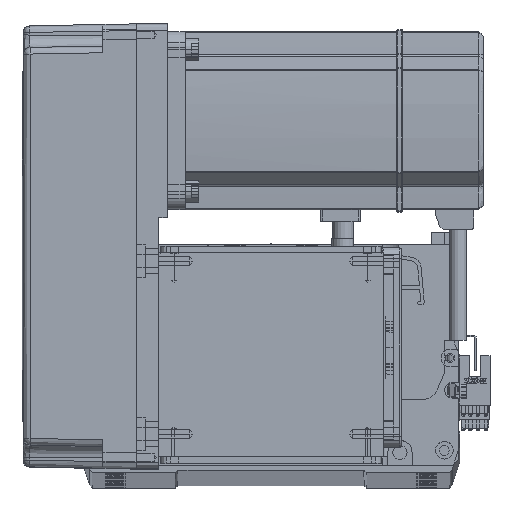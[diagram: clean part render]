
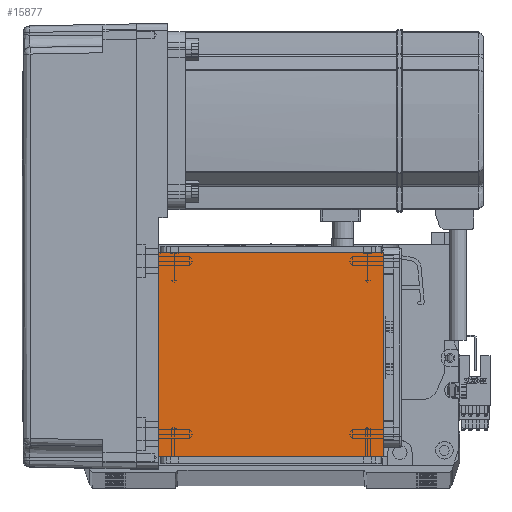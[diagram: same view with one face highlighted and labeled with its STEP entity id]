
A CAD part, top view. The second image highlights one B-rep face of the part: STEP entity #15877.
In plain terms, the highlighted planar face has unit normal (0, 0, 1).
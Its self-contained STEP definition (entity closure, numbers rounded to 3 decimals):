
#551 = CARTESIAN_POINT ( 'NONE',  ( 50.5, 122., 115. ) ) ;
#4725 = CARTESIAN_POINT ( 'NONE',  ( 50.5, 111.5, 115. ) ) ;
#4772 = CARTESIAN_POINT ( 'NONE',  ( 50.5, 20., 115. ) ) ;
#9736 = EDGE_CURVE ( 'NONE', #35675, #42508, #20729, .T. ) ;
#10131 = CARTESIAN_POINT ( 'NONE',  ( 0., 0., 115. ) ) ;
#14586 = ORIENTED_EDGE ( 'NONE', *, *, #47509, .F. ) ;
#15877 = ADVANCED_FACE ( 'NONE', ( #39068 ), #53673, .T. ) ;
#20729 = LINE ( 'NONE', #36093, #27471 ) ;
#21623 = CARTESIAN_POINT ( 'NONE',  ( -50.5, 111.5, 115. ) ) ;
#22297 = DIRECTION ( 'NONE',  ( 1., 0., 0. ) ) ;
#22531 = ORIENTED_EDGE ( 'NONE', *, *, #9736, .T. ) ;
#23085 = EDGE_CURVE ( 'NONE', #59026, #25606, #44150, .T. ) ;
#25606 = VERTEX_POINT ( 'NONE', #4725 ) ;
#26632 = VECTOR ( 'NONE', #32091, 1000. ) ;
#27471 = VECTOR ( 'NONE', #64068, 1000. ) ;
#28340 = LINE ( 'NONE', #55427, #38348 ) ;
#31009 = ORIENTED_EDGE ( 'NONE', *, *, #63866, .F. ) ;
#31813 = DIRECTION ( 'NONE',  ( 1., 0., 0. ) ) ;
#32091 = DIRECTION ( 'NONE',  ( -1., 0., 0. ) ) ;
#33297 = DIRECTION ( 'NONE',  ( 0., 1., 0. ) ) ;
#35675 = VERTEX_POINT ( 'NONE', #21623 ) ;
#36093 = CARTESIAN_POINT ( 'NONE',  ( -50.5, 122., 115. ) ) ;
#36953 = EDGE_LOOP ( 'NONE', ( #31009, #22531, #14586, #65745 ) ) ;
#38348 = VECTOR ( 'NONE', #22297, 1000. ) ;
#39068 = FACE_OUTER_BOUND ( 'NONE', #36953, .T. ) ;
#42205 = CARTESIAN_POINT ( 'NONE',  ( -70.004, 20., 115. ) ) ;
#42508 = VERTEX_POINT ( 'NONE', #57788 ) ;
#44150 = LINE ( 'NONE', #551, #57647 ) ;
#46801 = LINE ( 'NONE', #42205, #26632 ) ;
#47509 = EDGE_CURVE ( 'NONE', #59026, #42508, #46801, .T. ) ;
#47776 = DIRECTION ( 'NONE',  ( 0., 0., 1. ) ) ;
#53673 = PLANE ( 'NONE',  #63865 ) ;
#55427 = CARTESIAN_POINT ( 'NONE',  ( -70.004, 111.5, 115. ) ) ;
#57647 = VECTOR ( 'NONE', #33297, 1000. ) ;
#57788 = CARTESIAN_POINT ( 'NONE',  ( -50.5, 20., 115. ) ) ;
#59026 = VERTEX_POINT ( 'NONE', #4772 ) ;
#63865 = AXIS2_PLACEMENT_3D ( 'NONE', #10131, #47776, #31813 ) ;
#63866 = EDGE_CURVE ( 'NONE', #35675, #25606, #28340, .T. ) ;
#64068 = DIRECTION ( 'NONE',  ( 0., -1., 0. ) ) ;
#65745 = ORIENTED_EDGE ( 'NONE', *, *, #23085, .T. ) ;
